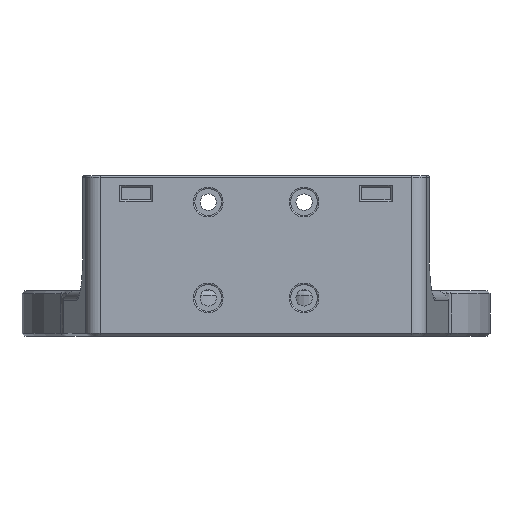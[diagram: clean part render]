
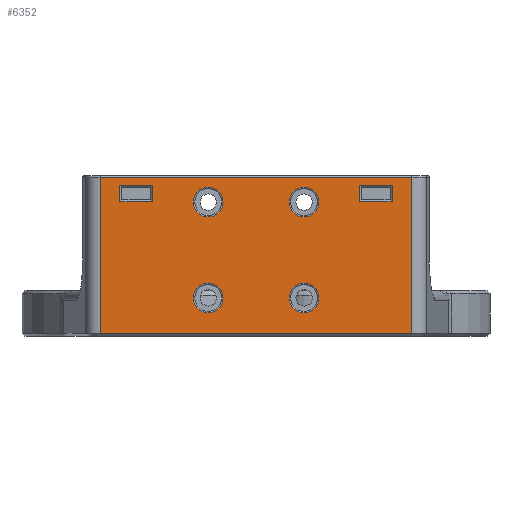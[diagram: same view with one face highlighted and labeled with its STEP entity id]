
A CAD part, front view. The second image highlights one B-rep face of the part: STEP entity #6352.
In plain terms, the highlighted planar face has unit normal (0, -1, 0).
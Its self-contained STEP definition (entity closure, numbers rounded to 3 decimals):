
#109=FACE_BOUND('',#908,.T.);
#110=FACE_BOUND('',#909,.T.);
#111=FACE_BOUND('',#910,.T.);
#112=FACE_BOUND('',#911,.T.);
#113=FACE_BOUND('',#912,.T.);
#114=FACE_BOUND('',#913,.T.);
#286=PLANE('',#6737);
#525=FACE_OUTER_BOUND('',#907,.T.);
#907=EDGE_LOOP('',(#5065,#5066,#5067,#5068));
#908=EDGE_LOOP('',(#5069,#5070,#5071,#5072));
#909=EDGE_LOOP('',(#5073));
#910=EDGE_LOOP('',(#5074));
#911=EDGE_LOOP('',(#5075));
#912=EDGE_LOOP('',(#5076));
#913=EDGE_LOOP('',(#5077,#5078,#5079,#5080));
#1151=CIRCLE('',#6738,3.1);
#1152=CIRCLE('',#6739,3.1);
#1153=CIRCLE('',#6740,3.1);
#1154=CIRCLE('',#6741,3.1);
#1905=LINE('',#12195,#2397);
#1909=LINE('',#12204,#2401);
#1914=LINE('',#12212,#2406);
#1915=LINE('',#12214,#2407);
#1922=LINE('',#12229,#2414);
#1923=LINE('',#12231,#2415);
#1924=LINE('',#12233,#2416);
#1925=LINE('',#12234,#2417);
#1926=LINE('',#12237,#2418);
#1927=LINE('',#12239,#2419);
#1928=LINE('',#12241,#2420);
#1929=LINE('',#12242,#2421);
#2397=VECTOR('',#7743,10.);
#2401=VECTOR('',#7749,10.);
#2406=VECTOR('',#7756,10.);
#2407=VECTOR('',#7759,10.);
#2414=VECTOR('',#7772,10.);
#2415=VECTOR('',#7773,10.);
#2416=VECTOR('',#7774,10.);
#2417=VECTOR('',#7775,10.);
#2418=VECTOR('',#7776,10.);
#2419=VECTOR('',#7777,10.);
#2420=VECTOR('',#7778,10.);
#2421=VECTOR('',#7779,10.);
#2973=VERTEX_POINT('',#12193);
#2974=VERTEX_POINT('',#12194);
#2977=VERTEX_POINT('',#12202);
#2978=VERTEX_POINT('',#12203);
#2984=VERTEX_POINT('',#12227);
#2985=VERTEX_POINT('',#12228);
#2986=VERTEX_POINT('',#12230);
#2987=VERTEX_POINT('',#12232);
#2988=VERTEX_POINT('',#12235);
#2989=VERTEX_POINT('',#12236);
#2990=VERTEX_POINT('',#12238);
#2991=VERTEX_POINT('',#12240);
#2992=VERTEX_POINT('',#12243);
#2993=VERTEX_POINT('',#12245);
#2994=VERTEX_POINT('',#12247);
#2995=VERTEX_POINT('',#12249);
#3764=EDGE_CURVE('',#2973,#2974,#1905,.T.);
#3768=EDGE_CURVE('',#2977,#2978,#1909,.T.);
#3773=EDGE_CURVE('',#2978,#2973,#1914,.T.);
#3774=EDGE_CURVE('',#2974,#2977,#1915,.T.);
#3781=EDGE_CURVE('',#2984,#2985,#1922,.T.);
#3782=EDGE_CURVE('',#2986,#2984,#1923,.T.);
#3783=EDGE_CURVE('',#2987,#2986,#1924,.T.);
#3784=EDGE_CURVE('',#2985,#2987,#1925,.T.);
#3785=EDGE_CURVE('',#2988,#2989,#1926,.T.);
#3786=EDGE_CURVE('',#2990,#2988,#1927,.T.);
#3787=EDGE_CURVE('',#2991,#2990,#1928,.T.);
#3788=EDGE_CURVE('',#2989,#2991,#1929,.T.);
#3789=EDGE_CURVE('',#2992,#2992,#1151,.T.);
#3790=EDGE_CURVE('',#2993,#2993,#1152,.T.);
#3791=EDGE_CURVE('',#2994,#2994,#1153,.T.);
#3792=EDGE_CURVE('',#2995,#2995,#1154,.T.);
#5065=ORIENTED_EDGE('',*,*,#3781,.F.);
#5066=ORIENTED_EDGE('',*,*,#3782,.F.);
#5067=ORIENTED_EDGE('',*,*,#3783,.F.);
#5068=ORIENTED_EDGE('',*,*,#3784,.F.);
#5069=ORIENTED_EDGE('',*,*,#3785,.F.);
#5070=ORIENTED_EDGE('',*,*,#3786,.F.);
#5071=ORIENTED_EDGE('',*,*,#3787,.F.);
#5072=ORIENTED_EDGE('',*,*,#3788,.F.);
#5073=ORIENTED_EDGE('',*,*,#3789,.F.);
#5074=ORIENTED_EDGE('',*,*,#3790,.F.);
#5075=ORIENTED_EDGE('',*,*,#3791,.F.);
#5076=ORIENTED_EDGE('',*,*,#3792,.F.);
#5077=ORIENTED_EDGE('',*,*,#3768,.F.);
#5078=ORIENTED_EDGE('',*,*,#3774,.F.);
#5079=ORIENTED_EDGE('',*,*,#3764,.F.);
#5080=ORIENTED_EDGE('',*,*,#3773,.F.);
#6352=ADVANCED_FACE('',(#525,#109,#110,#111,#112,#113,#114),#286,.T.);
#6737=AXIS2_PLACEMENT_3D('',#12226,#7770,#7771);
#6738=AXIS2_PLACEMENT_3D('',#12244,#7780,#7781);
#6739=AXIS2_PLACEMENT_3D('',#12246,#7782,#7783);
#6740=AXIS2_PLACEMENT_3D('',#12248,#7784,#7785);
#6741=AXIS2_PLACEMENT_3D('',#12250,#7786,#7787);
#7743=DIRECTION('',(0.,0.,-1.));
#7749=DIRECTION('',(0.,0.,1.));
#7756=DIRECTION('',(-1.,0.,0.));
#7759=DIRECTION('',(1.,0.,0.));
#7770=DIRECTION('center_axis',(0.,-1.,0.));
#7771=DIRECTION('ref_axis',(1.,0.,0.));
#7772=DIRECTION('',(-1.,0.,0.));
#7773=DIRECTION('',(0.,0.,-1.));
#7774=DIRECTION('',(1.,0.,0.));
#7775=DIRECTION('',(0.,0.,1.));
#7776=DIRECTION('',(-1.,0.,0.));
#7777=DIRECTION('',(0.,0.,1.));
#7778=DIRECTION('',(1.,0.,0.));
#7779=DIRECTION('',(0.,0.,-1.));
#7780=DIRECTION('center_axis',(0.,-1.,0.));
#7781=DIRECTION('ref_axis',(1.,0.,0.));
#7782=DIRECTION('center_axis',(0.,-1.,0.));
#7783=DIRECTION('ref_axis',(1.,0.,0.));
#7784=DIRECTION('center_axis',(0.,-1.,0.));
#7785=DIRECTION('ref_axis',(1.,0.,0.));
#7786=DIRECTION('center_axis',(0.,-1.,0.));
#7787=DIRECTION('ref_axis',(1.,0.,0.));
#12193=CARTESIAN_POINT('',(-28.4,-65.2,31.5));
#12194=CARTESIAN_POINT('',(-28.4,-65.2,28.1));
#12195=CARTESIAN_POINT('',(-28.4,-65.2,14.25));
#12202=CARTESIAN_POINT('',(-21.6,-65.2,28.1));
#12203=CARTESIAN_POINT('',(-21.6,-65.2,31.5));
#12204=CARTESIAN_POINT('',(-21.6,-65.2,15.55));
#12212=CARTESIAN_POINT('',(-34.1,-65.2,31.5));
#12214=CARTESIAN_POINT('',(-31.1,-65.2,28.1));
#12226=CARTESIAN_POINT('Origin',(-40.2,-65.2,0.));
#12227=CARTESIAN_POINT('',(32.547,-65.2,0.6));
#12228=CARTESIAN_POINT('',(-32.547,-65.2,0.6));
#12229=CARTESIAN_POINT('',(-20.1,-65.2,0.6));
#12230=CARTESIAN_POINT('',(32.547,-65.2,33.2));
#12231=CARTESIAN_POINT('',(32.547,-65.2,4.75));
#12232=CARTESIAN_POINT('',(-32.547,-65.2,33.2));
#12233=CARTESIAN_POINT('',(-20.1,-65.2,33.2));
#12234=CARTESIAN_POINT('',(-32.547,-65.2,4.75));
#12235=CARTESIAN_POINT('',(28.4,-65.2,31.5));
#12236=CARTESIAN_POINT('',(21.6,-65.2,31.5));
#12237=CARTESIAN_POINT('',(-9.1,-65.2,31.5));
#12238=CARTESIAN_POINT('',(28.4,-65.2,28.1));
#12239=CARTESIAN_POINT('',(28.4,-65.2,15.55));
#12240=CARTESIAN_POINT('',(21.6,-65.2,28.1));
#12241=CARTESIAN_POINT('',(-6.1,-65.2,28.1));
#12242=CARTESIAN_POINT('',(21.6,-65.2,14.25));
#12243=CARTESIAN_POINT('',(-9.968,-65.2,4.9));
#12244=CARTESIAN_POINT('Origin',(-9.968,-65.2,8.));
#12245=CARTESIAN_POINT('',(10.032,-65.2,24.9));
#12246=CARTESIAN_POINT('Origin',(10.032,-65.2,28.));
#12247=CARTESIAN_POINT('',(-9.968,-65.2,24.9));
#12248=CARTESIAN_POINT('Origin',(-9.968,-65.2,28.));
#12249=CARTESIAN_POINT('',(10.032,-65.2,4.9));
#12250=CARTESIAN_POINT('Origin',(10.032,-65.2,8.));
